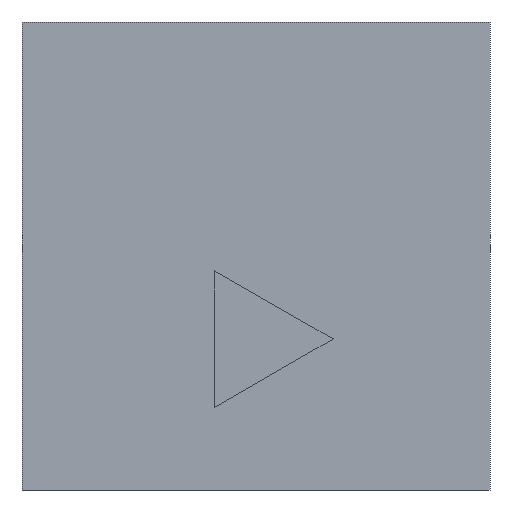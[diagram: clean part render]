
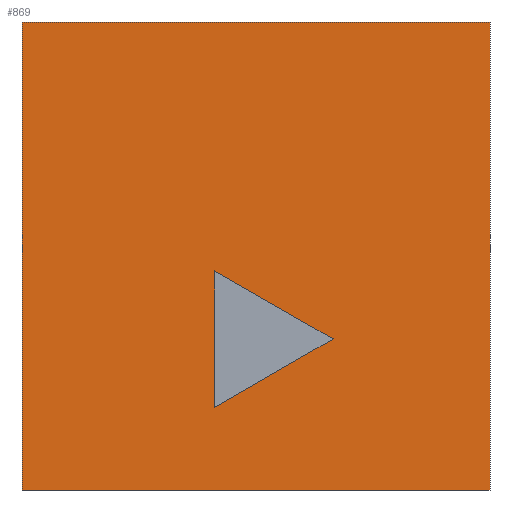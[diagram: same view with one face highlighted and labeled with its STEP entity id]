
A CAD part, front view. The second image highlights one B-rep face of the part: STEP entity #869.
In plain terms, the highlighted planar face has unit normal (0, -1, 0).
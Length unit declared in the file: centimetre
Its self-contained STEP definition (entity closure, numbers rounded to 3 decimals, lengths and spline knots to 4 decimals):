
#5 = LINE ( 'NONE', #897, #18 ) ;
#18 = VECTOR ( 'NONE', #851, 100. ) ;
#32 = LINE ( 'NONE', #803, #178 ) ;
#37 = ORIENTED_EDGE ( 'NONE', *, *, #856, .T. ) ;
#62 = DIRECTION ( 'NONE',  ( 0., 0., 1. ) ) ;
#93 = DIRECTION ( 'NONE',  ( 0., 0., -1. ) ) ;
#109 = DIRECTION ( 'NONE',  ( 0., 0., -1. ) ) ;
#126 = LINE ( 'NONE', #892, #660 ) ;
#133 = AXIS2_PLACEMENT_3D ( 'NONE', #832, #197, #62 ) ;
#157 = EDGE_LOOP ( 'NONE', ( #706, #690, #794 ) ) ;
#169 = DIRECTION ( 'NONE',  ( 1., 0., 0. ) ) ;
#178 = VECTOR ( 'NONE', #169, 100. ) ;
#197 = DIRECTION ( 'NONE',  ( 0., 1., 0. ) ) ;
#205 = CARTESIAN_POINT ( 'NONE',  ( 0., 0., 0. ) ) ;
#219 = PLANE ( 'NONE',  #133 ) ;
#224 = LINE ( 'NONE', #647, #658 ) ;
#227 = VECTOR ( 'NONE', #93, 100. ) ;
#231 = VERTEX_POINT ( 'NONE', #595 ) ;
#233 = VERTEX_POINT ( 'NONE', #808 ) ;
#257 = EDGE_CURVE ( 'NONE', #231, #233, #126, .T. ) ;
#264 = CARTESIAN_POINT ( 'NONE',  ( 1000., 0., 0. ) ) ;
#275 = EDGE_LOOP ( 'NONE', ( #37, #761, #396, #715 ) ) ;
#282 = FACE_OUTER_BOUND ( 'NONE', #275, .T. ) ;
#290 = CARTESIAN_POINT ( 'NONE',  ( 1000., 0., 1000. ) ) ;
#332 = DIRECTION ( 'NONE',  ( 1., 0., 0. ) ) ;
#348 = CARTESIAN_POINT ( 'NONE',  ( 0., 0., 0. ) ) ;
#362 = CARTESIAN_POINT ( 'NONE',  ( 411.5228, 0., 176.2432 ) ) ;
#366 = CARTESIAN_POINT ( 'NONE',  ( 411.5228, 0., 468.1229 ) ) ;
#396 = ORIENTED_EDGE ( 'NONE', *, *, #810, .F. ) ;
#411 = LINE ( 'NONE', #205, #813 ) ;
#432 = DIRECTION ( 'NONE',  ( 0.865, 0., 0.501 ) ) ;
#438 = CARTESIAN_POINT ( 'NONE',  ( 1000., 0., 1000. ) ) ;
#478 = FACE_BOUND ( 'NONE', #157, .T. ) ;
#493 = EDGE_CURVE ( 'NONE', #662, #231, #224, .T. ) ;
#546 = EDGE_CURVE ( 'NONE', #233, #662, #588, .T. ) ;
#564 = VERTEX_POINT ( 'NONE', #264 ) ;
#588 = LINE ( 'NONE', #366, #887 ) ;
#595 = CARTESIAN_POINT ( 'NONE',  ( 664.6423, 0., 322.7793 ) ) ;
#601 = CARTESIAN_POINT ( 'NONE',  ( 0., 0., 1000. ) ) ;
#647 = CARTESIAN_POINT ( 'NONE',  ( 411.5228, 0., 176.2432 ) ) ;
#658 = VECTOR ( 'NONE', #432, 100. ) ;
#660 = VECTOR ( 'NONE', #767, 100. ) ;
#662 = VERTEX_POINT ( 'NONE', #362 ) ;
#663 = VERTEX_POINT ( 'NONE', #348 ) ;
#690 = ORIENTED_EDGE ( 'NONE', *, *, #493, .F. ) ;
#695 = VERTEX_POINT ( 'NONE', #290 ) ;
#706 = ORIENTED_EDGE ( 'NONE', *, *, #257, .F. ) ;
#715 = ORIENTED_EDGE ( 'NONE', *, *, #859, .T. ) ;
#736 = LINE ( 'NONE', #438, #227 ) ;
#761 = ORIENTED_EDGE ( 'NONE', *, *, #785, .F. ) ;
#767 = DIRECTION ( 'NONE',  ( -0.867, 0., 0.498 ) ) ;
#785 = EDGE_CURVE ( 'NONE', #695, #564, #736, .T. ) ;
#794 = ORIENTED_EDGE ( 'NONE', *, *, #546, .F. ) ;
#803 = CARTESIAN_POINT ( 'NONE',  ( 0., 0., 1000. ) ) ;
#808 = CARTESIAN_POINT ( 'NONE',  ( 411.5228, 0., 468.1229 ) ) ;
#810 = EDGE_CURVE ( 'NONE', #895, #695, #32, .T. ) ;
#813 = VECTOR ( 'NONE', #332, 100. ) ;
#832 = CARTESIAN_POINT ( 'NONE',  ( 0., 0., 1000. ) ) ;
#851 = DIRECTION ( 'NONE',  ( 0., 0., -1. ) ) ;
#856 = EDGE_CURVE ( 'NONE', #663, #564, #411, .T. ) ;
#859 = EDGE_CURVE ( 'NONE', #895, #663, #5, .T. ) ;
#869 = ADVANCED_FACE ( 'NONE', ( #478, #282 ), #219, .F. ) ;
#887 = VECTOR ( 'NONE', #109, 100. ) ;
#892 = CARTESIAN_POINT ( 'NONE',  ( 664.6423, 0., 322.7793 ) ) ;
#895 = VERTEX_POINT ( 'NONE', #601 ) ;
#897 = CARTESIAN_POINT ( 'NONE',  ( 0., 0., 1000. ) ) ;
